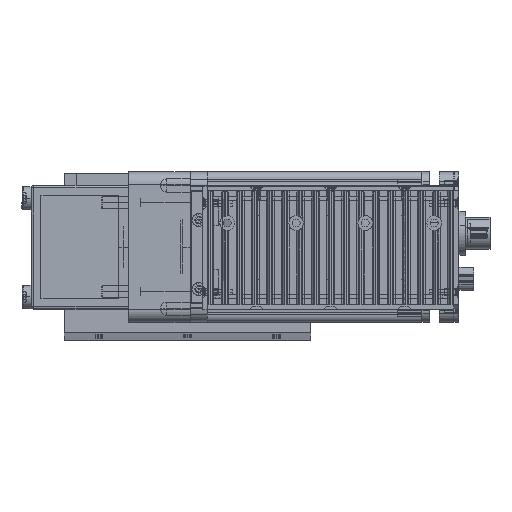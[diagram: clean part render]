
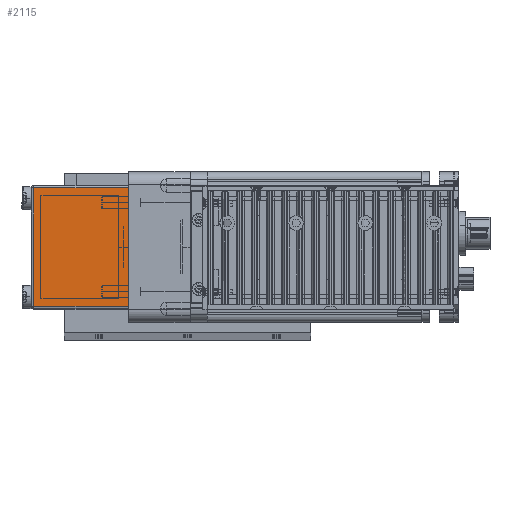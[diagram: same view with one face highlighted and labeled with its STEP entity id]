
A CAD part, top view. The second image highlights one B-rep face of the part: STEP entity #2115.
In plain terms, the highlighted planar face has unit normal (0, 0, 1) as drawn and (1, 0, 0) by its records, which use the part's own axes.
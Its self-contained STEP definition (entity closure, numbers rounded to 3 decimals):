
#1779 = VERTEX_POINT ( 'NONE', #30603 ) ;
#1780 = EDGE_CURVE ( 'NONE', #1786, #1810, #30601, .T. ) ;
#1786 = VERTEX_POINT ( 'NONE', #30602 ) ;
#1810 = VERTEX_POINT ( 'NONE', #30623 ) ;
#1813 = EDGE_CURVE ( 'NONE', #1835, #1779, #30660, .T. ) ;
#1835 = VERTEX_POINT ( 'NONE', #30697 ) ;
#2067 = ORIENTED_EDGE ( 'NONE', *, *, #1813, .F. ) ;
#2080 = EDGE_LOOP ( 'NONE', ( #2067, #2112, #2098, #2109 ) ) ;
#2098 = ORIENTED_EDGE ( 'NONE', *, *, #1780, .F. ) ;
#2100 = EDGE_CURVE ( 'NONE', #1779, #1786, #31148, .T. ) ;
#2109 = ORIENTED_EDGE ( 'NONE', *, *, #2100, .F. ) ;
#2110 = EDGE_CURVE ( 'NONE', #1835, #1810, #31203, .T. ) ;
#2112 = ORIENTED_EDGE ( 'NONE', *, *, #2110, .T. ) ;
#2115 = ADVANCED_FACE ( 'NONE', ( #31201 ), #31208, .F. ) ;
#30596 = DIRECTION ( 'NONE',  ( 0., 0., -1. ) ) ;
#30597 = VECTOR ( 'NONE', #30596, 1000. ) ;
#30598 = CARTESIAN_POINT ( 'NONE',  ( 62., 24., 39.5 ) ) ;
#30601 = LINE ( 'NONE', #30598, #30597 ) ;
#30602 = CARTESIAN_POINT ( 'NONE',  ( 62., 24., 38.5 ) ) ;
#30603 = CARTESIAN_POINT ( 'NONE',  ( 62., -24., 38.5 ) ) ;
#30623 = CARTESIAN_POINT ( 'NONE',  ( 62., 24., 0. ) ) ;
#30657 = DIRECTION ( 'NONE',  ( 0., 0., 1. ) ) ;
#30658 = VECTOR ( 'NONE', #30657, 1000. ) ;
#30659 = CARTESIAN_POINT ( 'NONE',  ( 62., -24., 39.5 ) ) ;
#30660 = LINE ( 'NONE', #30659, #30658 ) ;
#30697 = CARTESIAN_POINT ( 'NONE',  ( 62., -24., 0. ) ) ;
#31147 = CARTESIAN_POINT ( 'NONE',  ( 62., -25., 38.5 ) ) ;
#31148 = LINE ( 'NONE', #31147, #31207 ) ;
#31150 = AXIS2_PLACEMENT_3D ( 'NONE', #31195, #31194, #31193 ) ;
#31152 = DIRECTION ( 'NONE',  ( 0., 1., 0. ) ) ;
#31153 = VECTOR ( 'NONE', #31152, 1000. ) ;
#31193 = DIRECTION ( 'NONE',  ( 0., -1., 0. ) ) ;
#31194 = DIRECTION ( 'NONE',  ( -1., 0., 0. ) ) ;
#31195 = CARTESIAN_POINT ( 'NONE',  ( 62., 25., 39.5 ) ) ;
#31201 = FACE_OUTER_BOUND ( 'NONE', #2080, .T. ) ;
#31202 = CARTESIAN_POINT ( 'NONE',  ( 62., -25., 0. ) ) ;
#31203 = LINE ( 'NONE', #31202, #31153 ) ;
#31206 = DIRECTION ( 'NONE',  ( 0., 1., 0. ) ) ;
#31207 = VECTOR ( 'NONE', #31206, 1000. ) ;
#31208 = PLANE ( 'NONE',  #31150 ) ;
